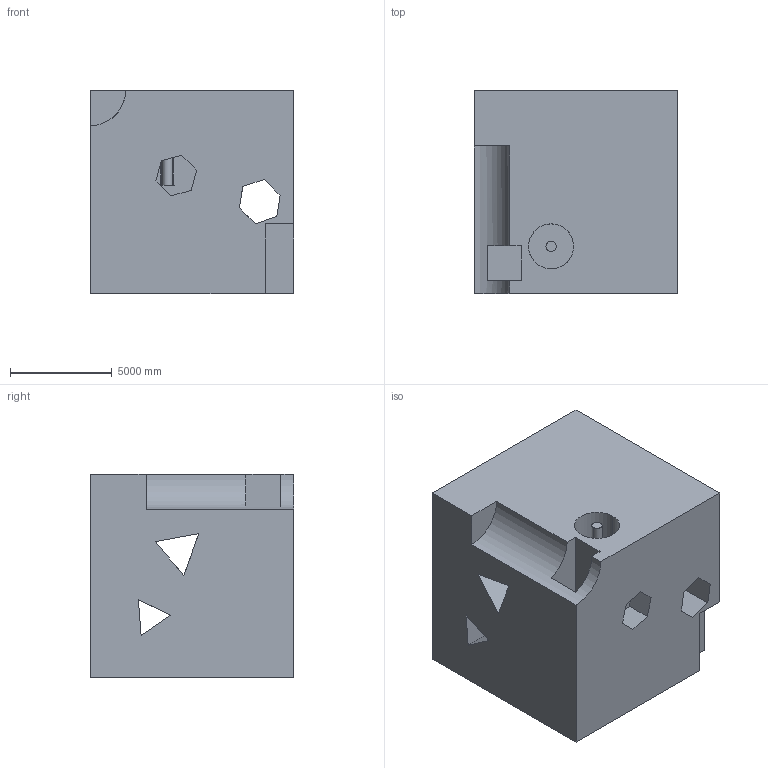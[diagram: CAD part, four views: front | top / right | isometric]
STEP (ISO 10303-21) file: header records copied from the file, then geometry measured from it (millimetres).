
FILE_DESCRIPTION (( 'STEP AP203' ), '1' );
FILE_NAME ('350.STEP', '2022-09-07T13:05:32', ( 'user' ), ( '' ), 'SwSTEP 2.0', 'SolidWorks 2021', '' );
FILE_SCHEMA (( 'CONFIG_CONTROL_DESIGN' ));
Length unit declared in the file: centimetre
Products named in the file (1): 350
Bounding box: 10000 x 10000 x 10000 mm (x, y, z)
Volume: 870481517363.2 mm3; surface area: 857604171.1 mm2
Topology: 1 solids, 1 shells, 43 faces, 132 edges, 88 vertices
Faces by surface type: plane 38, cylinder 5
Entity records: 1560 total; most frequent: CARTESIAN_POINT 270, ORIENTED_EDGE 264, DIRECTION 231, EDGE_CURVE 132, LINE 117, VECTOR 117, VERTEX_POINT 88, AXIS2_PLACEMENT_3D 57
